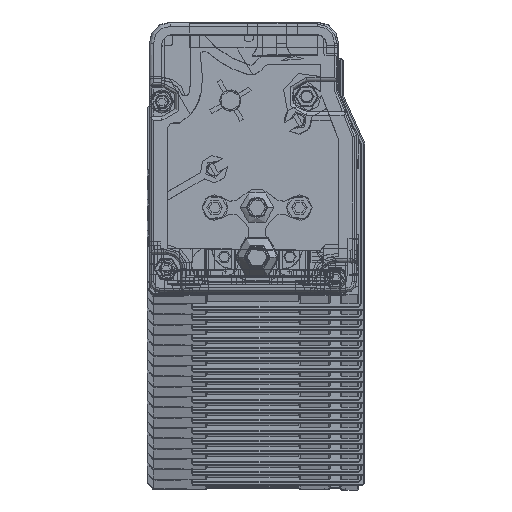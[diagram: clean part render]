
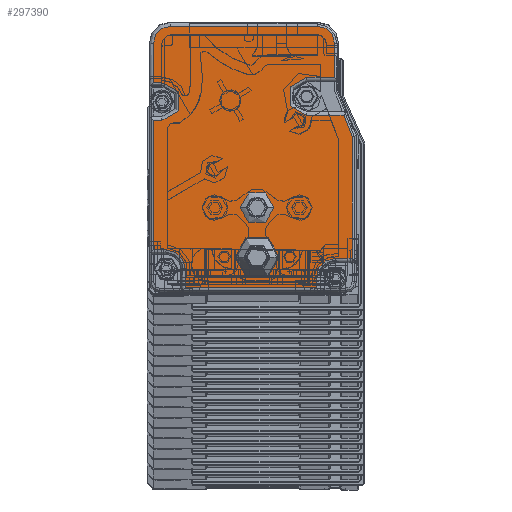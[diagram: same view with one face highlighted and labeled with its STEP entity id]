
A CAD part, top view. The second image highlights one B-rep face of the part: STEP entity #297390.
In plain terms, the highlighted planar face has unit normal (0, 0, 1).
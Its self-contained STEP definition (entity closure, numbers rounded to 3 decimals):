
#295280=CARTESIAN_POINT('',(-20.265,1.758,
3572.39));
#295290=DIRECTION('',(0.,0.,-1.));
#295300=DIRECTION('',(-1.,0.,0.));
#295310=AXIS2_PLACEMENT_3D('',#295280,#295290,#295300);
#295320=PLANE('',#295310);
#295330=CARTESIAN_POINT('',(-44.056,10.421,
3572.39));
#295340=DIRECTION('',(0.,0.,-1.));
#295350=DIRECTION('',(-1.,0.,0.));
#295360=AXIS2_PLACEMENT_3D('',#295330,#295340,#295350);
#295370=CIRCLE('',#295360,5.);
#295380=CARTESIAN_POINT('',(-49.056,10.421,
3572.39));
#295390=VERTEX_POINT('',#295380);
#295400=CARTESIAN_POINT('',(-39.056,10.421,
3572.39));
#295410=VERTEX_POINT('',#295400);
#295420=EDGE_CURVE('',#295390,#295410,#295370,.T.);
#295430=ORIENTED_EDGE('',*,*,#295420,.T.);
#295440=EDGE_CURVE('',#295410,#295390,#295370,.T.);
#295450=ORIENTED_EDGE('',*,*,#295440,.T.);
#295460=EDGE_LOOP('',(#295450,#295430));
#295470=FACE_BOUND('',#295460,.T.);
#295480=CARTESIAN_POINT('',(-44.059,22.124,
3572.39));
#295490=DIRECTION('',(0.,0.,1.));
#295500=DIRECTION('',(-1.,0.,0.));
#295510=AXIS2_PLACEMENT_3D('',#295480,#295490,#295500);
#295520=CIRCLE('',#295510,4.);
#295530=CARTESIAN_POINT('',(-40.059,22.124,
3572.39));
#295540=VERTEX_POINT('',#295530);
#295550=CARTESIAN_POINT('',(-48.059,22.124,
3572.39));
#295560=VERTEX_POINT('',#295550);
#295570=EDGE_CURVE('',#295540,#295560,#295520,.T.);
#295580=ORIENTED_EDGE('',*,*,#295570,.F.);
#295590=EDGE_CURVE('',#295560,#295540,#295520,.T.);
#295600=ORIENTED_EDGE('',*,*,#295590,.F.);
#295610=EDGE_LOOP('',(#295600,#295580));
#295620=FACE_BOUND('',#295610,.T.);
#295630=CARTESIAN_POINT('',(-61.059,2.124,
3572.39));
#295640=DIRECTION('',(0.,-1.,0.));
#295650=VECTOR('',#295640,1.);
#295660=LINE('',#295630,#295650);
#295670=CARTESIAN_POINT('',(-61.059,7.624,
3572.39));
#295680=VERTEX_POINT('',#295670);
#295690=CARTESIAN_POINT('',(-61.059,3.124,
3572.39));
#295700=VERTEX_POINT('',#295690);
#295710=EDGE_CURVE('',#295680,#295700,#295660,.T.);
#295720=ORIENTED_EDGE('',*,*,#295710,.T.);
#295730=CARTESIAN_POINT('',(-65.559,7.624,
3572.39));
#295740=DIRECTION('',(0.,0.,-1.));
#295750=DIRECTION('',(-1.,0.,0.));
#295760=AXIS2_PLACEMENT_3D('',#295730,#295740,#295750);
#295770=CIRCLE('',#295760,4.5);
#295780=CARTESIAN_POINT('',(-65.559,12.124,
3572.39));
#295790=VERTEX_POINT('',#295780);
#295800=EDGE_CURVE('',#295790,#295680,#295770,.T.);
#295810=ORIENTED_EDGE('',*,*,#295800,.T.);
#295820=CARTESIAN_POINT('',(-20.559,12.124,
3572.39));
#295830=DIRECTION('',(1.,0.,0.));
#295840=VECTOR('',#295830,1.);
#295850=LINE('',#295820,#295840);
#295860=CARTESIAN_POINT('',(-68.559,12.124,
3572.39));
#295870=VERTEX_POINT('',#295860);
#295880=EDGE_CURVE('',#295870,#295790,#295850,.T.);
#295890=ORIENTED_EDGE('',*,*,#295880,.T.);
#295900=CARTESIAN_POINT('',(-68.559,2.124,
3572.39));
#295910=DIRECTION('',(0.,-1.,0.));
#295920=VECTOR('',#295910,1.);
#295930=LINE('',#295900,#295920);
#295940=CARTESIAN_POINT('',(-68.559,42.727,
3572.39));
#295950=VERTEX_POINT('',#295940);
#295960=EDGE_CURVE('',#295950,#295870,#295930,.T.);
#295970=ORIENTED_EDGE('',*,*,#295960,.T.);
#295980=CARTESIAN_POINT('',(-20.559,42.727,
3572.39));
#295990=DIRECTION('',(-1.,0.,0.));
#296000=VECTOR('',#295990,1.);
#296010=LINE('',#295980,#296000);
#296020=CARTESIAN_POINT('',(-66.559,42.727,
3572.39));
#296030=VERTEX_POINT('',#296020);
#296040=EDGE_CURVE('',#296030,#295950,#296010,.T.);
#296050=ORIENTED_EDGE('',*,*,#296040,.T.);
#296060=CARTESIAN_POINT('',(-66.559,47.227,
3572.39));
#296070=DIRECTION('',(0.,0.,-1.));
#296080=DIRECTION('',(-1.,0.,0.));
#296090=AXIS2_PLACEMENT_3D('',#296060,#296070,#296080);
#296100=CIRCLE('',#296090,4.5);
#296110=CARTESIAN_POINT('',(-66.559,51.727,
3572.39));
#296120=VERTEX_POINT('',#296110);
#296130=EDGE_CURVE('',#296120,#296030,#296100,.T.);
#296140=ORIENTED_EDGE('',*,*,#296130,.T.);
#296150=CARTESIAN_POINT('',(-20.559,51.727,
3572.39));
#296160=DIRECTION('',(1.,0.,0.));
#296170=VECTOR('',#296160,1.);
#296180=LINE('',#296150,#296170);
#296190=CARTESIAN_POINT('',(-68.559,51.727,
3572.39));
#296200=VERTEX_POINT('',#296190);
#296210=EDGE_CURVE('',#296200,#296120,#296180,.T.);
#296220=ORIENTED_EDGE('',*,*,#296210,.T.);
#296230=CARTESIAN_POINT('',(-68.559,2.124,
3572.39));
#296240=DIRECTION('',(0.,-1.,0.));
#296250=VECTOR('',#296240,1.);
#296260=LINE('',#296230,#296250);
#296270=CARTESIAN_POINT('',(-68.559,61.024,
3572.39));
#296280=VERTEX_POINT('',#296270);
#296290=EDGE_CURVE('',#296280,#296200,#296260,.T.);
#296300=ORIENTED_EDGE('',*,*,#296290,.T.);
#296310=CARTESIAN_POINT('',(-64.559,61.024,
3572.39));
#296320=DIRECTION('',(0.,0.,1.));
#296330=DIRECTION('',(1.,0.,0.));
#296340=AXIS2_PLACEMENT_3D('',#296310,#296320,#296330);
#296350=CIRCLE('',#296340,4.);
#296360=CARTESIAN_POINT('',(-64.559,65.024,
3572.39));
#296370=VERTEX_POINT('',#296360);
#296380=EDGE_CURVE('',#296370,#296280,#296350,.T.);
#296390=ORIENTED_EDGE('',*,*,#296380,.T.);
#296400=CARTESIAN_POINT('',(-20.559,65.024,
3572.39));
#296410=DIRECTION('',(-1.,0.,0.));
#296420=VECTOR('',#296410,1.);
#296430=LINE('',#296400,#296420);
#296440=CARTESIAN_POINT('',(-29.759,65.024,
3572.39));
#296450=VERTEX_POINT('',#296440);
#296460=EDGE_CURVE('',#296450,#296370,#296430,.T.);
#296470=ORIENTED_EDGE('',*,*,#296460,.T.);
#296480=CARTESIAN_POINT('',(-29.759,61.024,
3572.39));
#296490=DIRECTION('',(0.,0.,1.));
#296500=DIRECTION('',(1.,0.,0.));
#296510=AXIS2_PLACEMENT_3D('',#296480,#296490,#296500);
#296520=CIRCLE('',#296510,4.);
#296530=CARTESIAN_POINT('',(-25.759,61.024,
3572.39));
#296540=VERTEX_POINT('',#296530);
#296550=EDGE_CURVE('',#296540,#296450,#296520,.T.);
#296560=ORIENTED_EDGE('',*,*,#296550,.T.);
#296570=CARTESIAN_POINT('',(-25.759,2.124,
3572.39));
#296580=DIRECTION('',(0.,1.,0.));
#296590=VECTOR('',#296580,1.);
#296600=LINE('',#296570,#296590);
#296610=CARTESIAN_POINT('',(-25.759,52.924,
3572.39));
#296620=VERTEX_POINT('',#296610);
#296630=EDGE_CURVE('',#296620,#296540,#296600,.T.);
#296640=ORIENTED_EDGE('',*,*,#296630,.T.);
#296650=CARTESIAN_POINT('',(-20.559,52.924,
3572.39));
#296660=DIRECTION('',(-1.,0.,0.));
#296670=VECTOR('',#296660,1.);
#296680=LINE('',#296650,#296670);
#296690=CARTESIAN_POINT('',(-32.309,52.924,
3572.39));
#296700=VERTEX_POINT('',#296690);
#296710=EDGE_CURVE('',#296620,#296700,#296680,.T.);
#296720=ORIENTED_EDGE('',*,*,#296710,.F.);
#296730=CARTESIAN_POINT('',(-32.309,48.424,
3572.39));
#296740=DIRECTION('',(0.,0.,-1.));
#296750=DIRECTION('',(-1.,0.,0.));
#296760=AXIS2_PLACEMENT_3D('',#296730,#296740,#296750);
#296770=CIRCLE('',#296760,4.5);
#296780=CARTESIAN_POINT('',(-32.309,43.924,
3572.39));
#296790=VERTEX_POINT('',#296780);
#296800=EDGE_CURVE('',#296790,#296700,#296770,.T.);
#296810=ORIENTED_EDGE('',*,*,#296800,.T.);
#296820=CARTESIAN_POINT('',(-20.559,43.924,
3572.39));
#296830=DIRECTION('',(-1.,0.,0.));
#296840=VECTOR('',#296830,1.);
#296850=LINE('',#296820,#296840);
#296860=CARTESIAN_POINT('',(-23.499,43.924,
3572.39));
#296870=VERTEX_POINT('',#296860);
#296880=EDGE_CURVE('',#296870,#296790,#296850,.T.);
#296890=ORIENTED_EDGE('',*,*,#296880,.T.);
#296900=CARTESIAN_POINT('',(-7.243,2.124,
3572.39));
#296910=DIRECTION('',(0.362,-0.932,0.));
#296920=VECTOR('',#296910,1.);
#296930=LINE('',#296900,#296920);
#296940=CARTESIAN_POINT('',(-21.559,38.937,
3572.39));
#296950=VERTEX_POINT('',#296940);
#296960=EDGE_CURVE('',#296870,#296950,#296930,.T.);
#296970=ORIENTED_EDGE('',*,*,#296960,.F.);
#296980=CARTESIAN_POINT('',(-21.559,2.124,
3572.39));
#296990=DIRECTION('',(0.,-1.,0.));
#297000=VECTOR('',#296990,1.);
#297010=LINE('',#296980,#297000);
#297020=CARTESIAN_POINT('',(-21.559,10.124,
3572.39));
#297030=VERTEX_POINT('',#297020);
#297040=EDGE_CURVE('',#296950,#297030,#297010,.T.);
#297050=ORIENTED_EDGE('',*,*,#297040,.F.);
#297060=CARTESIAN_POINT('',(-20.559,10.124,
3572.39));
#297070=DIRECTION('',(1.,0.,0.));
#297080=VECTOR('',#297070,1.);
#297090=LINE('',#297060,#297080);
#297100=CARTESIAN_POINT('',(-25.559,10.124,
3572.39));
#297110=VERTEX_POINT('',#297100);
#297120=EDGE_CURVE('',#297110,#297030,#297090,.T.);
#297130=ORIENTED_EDGE('',*,*,#297120,.T.);
#297140=CARTESIAN_POINT('',(-25.559,5.624,
3572.39));
#297150=DIRECTION('',(0.,0.,-1.));
#297160=DIRECTION('',(-1.,0.,0.));
#297170=AXIS2_PLACEMENT_3D('',#297140,#297150,#297160);
#297180=CIRCLE('',#297170,4.5);
#297190=CARTESIAN_POINT('',(-30.059,5.624,
3572.39));
#297200=VERTEX_POINT('',#297190);
#297210=EDGE_CURVE('',#297200,#297110,#297180,.T.);
#297220=ORIENTED_EDGE('',*,*,#297210,.T.);
#297230=CARTESIAN_POINT('',(-30.059,2.124,
3572.39));
#297240=DIRECTION('',(0.,1.,0.));
#297250=VECTOR('',#297240,1.);
#297260=LINE('',#297230,#297250);
#297270=CARTESIAN_POINT('',(-30.059,3.124,
3572.39));
#297280=VERTEX_POINT('',#297270);
#297290=EDGE_CURVE('',#297280,#297200,#297260,.T.);
#297300=ORIENTED_EDGE('',*,*,#297290,.T.);
#297310=CARTESIAN_POINT('',(-20.559,3.124,
3572.39));
#297320=DIRECTION('',(-1.,0.,0.));
#297330=VECTOR('',#297320,1.);
#297340=LINE('',#297310,#297330);
#297350=EDGE_CURVE('',#297280,#295700,#297340,.T.);
#297360=ORIENTED_EDGE('',*,*,#297350,.F.);
#297370=EDGE_LOOP('',(#297360,#297300,#297220,#297130,#297050,#296970,
#296890,#296810,#296720,#296640,#296560,#296470,#296390,#296300,#296220,
#296140,#296050,#295970,#295890,#295810,#295720));
#297380=FACE_OUTER_BOUND('',#297370,.T.);
#297390=ADVANCED_FACE('',(#295470,#295620,#297380),#295320,.F.);
